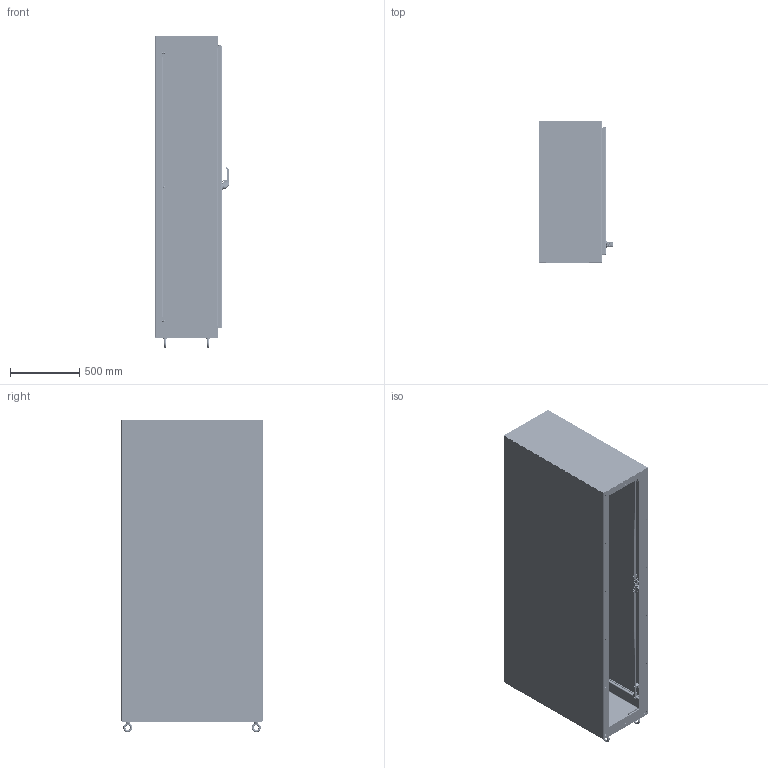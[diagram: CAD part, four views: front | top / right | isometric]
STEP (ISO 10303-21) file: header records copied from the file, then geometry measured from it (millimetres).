
FILE_DESCRIPTION((''),'2;1');
FILE_NAME('MODEL-461_ASM','2026-04-22T09:20:14',('richards'),('SAGINAW CONTROL & ENGINEERING'),'CREO PARAMETRIC BY PTC INC, 2021284','CREO PARAMETRIC BY PTC INC, 2021284','');
FILE_SCHEMA(('AUTOMOTIVE_DESIGN { 1 0 10303 214 1 1 1 1 }'));
Length unit declared in the file: inch
Products named in the file (80): MODEL-461-L-SD; MODEL-461-TP; MODEL-461-R-SD; MODEL-461-BTM; MODEL-461-DR; 100837; 100957_SCREW_MTG; 100957_PADLOCK_CATCH; 100957_SCREW_LARGE; 100957_INSERT_SHAFT; 100957_INSERT_PH; 100957_GASKET; 100957_O-RING; 100957_BASE; 100957_SPRING; 100957_HANDLE; 100957_CAM_SHAFT; 100957_HANDLE_ASM; 100957_CAM_ADAPTER; 100957_EARTH_NUT; 100957_FLANGE_NUT; 100957_CAM_NUT; 100957_ASM; 102237; 100030; 102237_ASM; MODEL-461-ROD-UPR; 128146; 128145; 128144; 102482; MODEL-461-ROD-UPR_ASM; 128143; 100882; 112504; MODEL-461-ROD-LWR; MODEL-461-ROD-LWR_ASM; MODEL-461-PR-GSKT; 128258; 128258_ASM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
Assembly tree (149 placements, depth 5):
  MODEL-461_ASM
    MODEL-461-L-SD
    MODEL-461-TP
    MODEL-461-R-SD
    MODEL-461-BTM
    MODEL-461-DOOR-ASSY_ASM
      MODEL-461-DR
      100837  x3
      100957_ASM
        100957_SCREW_MTG
        100957_PADLOCK_CATCH
        100957_SCREW_LARGE  x2
        100957_INSERT_SHAFT
        100957_INSERT_PH
        100957_GASKET
        100957_O-RING
        100957_BASE
        100957_SPRING
        100957_HANDLE_ASM
          100957_HANDLE
          100957_CAM_SHAFT
        100957_CAM_ADAPTER
        100957_EARTH_NUT
        100957_FLANGE_NUT
        100957_CAM_NUT
      102237_ASM
        102237
        100030  x2
      MODEL-461-ROD-UPR_ASM
        MODEL-461-ROD-UPR
        128146
        128145
        128144
        102482  x2
      128143  x2
      100882  x10
      112504  x2
      MODEL-461-ROD-LWR_ASM
        MODEL-461-ROD-LWR
        128146
        128145
        128144
        102482  x2
      MODEL-461-PR-GSKT
      128258_ASM  x4
        128258
      126395  x4
      102483  x4
      101383_ASM  x4
        101383
        101383-STUD
      101221  x4
      125597
    MODEL-461-BCK
    100837  x6
    101653  x8
    102245  x2
    121454
    MODEL-461-BB  x3
    130514  x4
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Bounding box: 535.27 x 1022.35 x 2259.2 mm (x, y, z)
Volume: 26647105.4 mm3; surface area: 19137124.1 mm2
Topology: 154 solids, 154 shells, 15755 faces, 39831 edges, 24470 vertices
Faces by surface type: plane 5232, cylinder 4406, bspline 3295, torus 1378, cone 667, sphere 482, extrusion 295
Entity records: 547885 total; most frequent: CARTESIAN_POINT 262656, ORIENTED_EDGE 44452, DIRECTION 40629, PRESENTATION_STYLE_ASSIGNMENT 22295, STYLED_ITEM 22265, EDGE_CURVE 22226, CURVE_STYLE 22178, AXIS2_PLACEMENT_3D 15082
